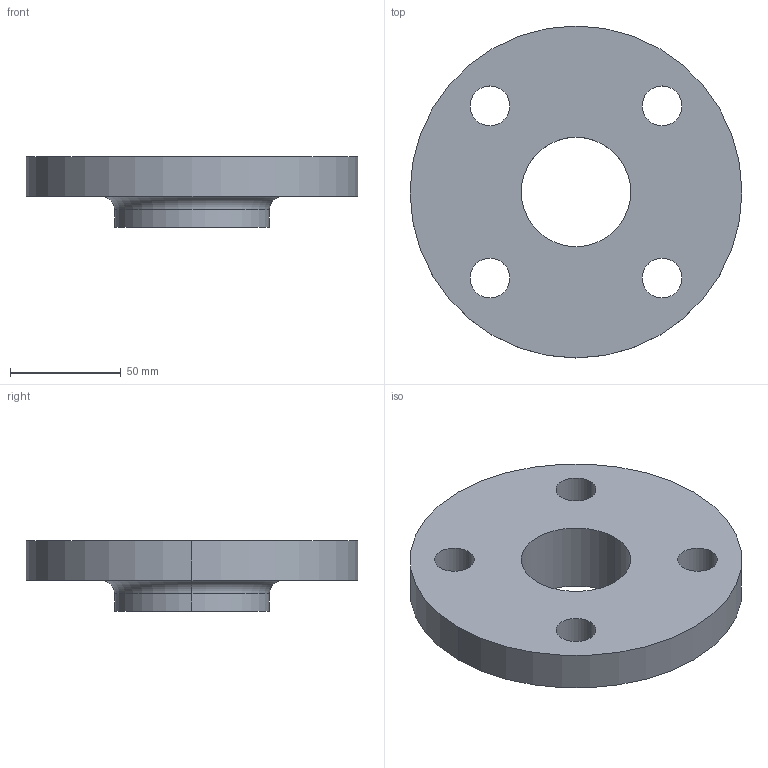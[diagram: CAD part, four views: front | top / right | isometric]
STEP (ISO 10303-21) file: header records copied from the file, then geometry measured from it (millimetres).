
FILE_DESCRIPTION (( 'STEP AP214' ), '1' );
FILE_NAME ('PN40 DN40 Type 12 - Type A Face.STEP', '2018-12-30T01:42:28', ( '' ), ( '' ), 'SwSTEP 2.0', 'SolidWorks 2019', '' );
FILE_SCHEMA (( 'AUTOMOTIVE_DESIGN' ));
Length unit declared in the file: millimetre
Products named in the file (1): PN40 DN40 Type 12 - Type A Face
Bounding box: 150 x 150 x 32 mm (x, y, z)
Volume: 293825.3 mm3; surface area: 49516.9 mm2
Topology: 1 solids, 1 shells, 19 faces, 46 edges, 30 vertices
Faces by surface type: cylinder 14, plane 3, torus 2
Entity records: 630 total; most frequent: DIRECTION 118, CARTESIAN_POINT 96, ORIENTED_EDGE 92, AXIS2_PLACEMENT_3D 52, EDGE_CURVE 46, CIRCLE 32, VERTEX_POINT 30, EDGE_LOOP 30
